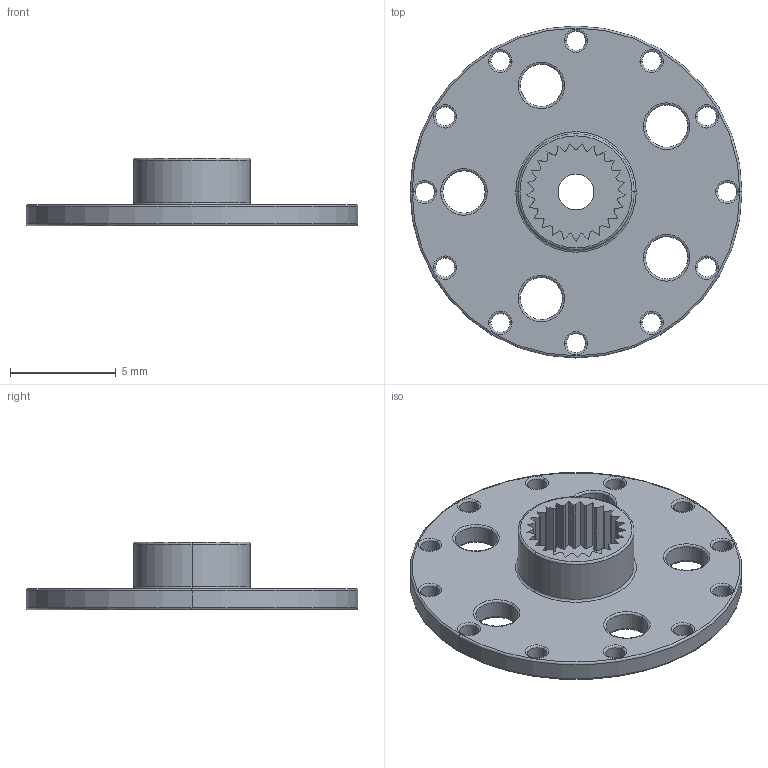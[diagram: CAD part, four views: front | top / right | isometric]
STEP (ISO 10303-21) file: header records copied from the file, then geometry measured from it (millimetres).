
FILE_DESCRIPTION (( 'STEP AP203' ), '1' );
FILE_NAME ('Micro sized Servo Mount - Round_Default.step', '2015-09-06T16:54:11', ( '' ), ( '' ), 'SwSTEP 2.0', 'SolidWorks 2015', '' );
FILE_SCHEMA (( 'CONFIG_CONTROL_DESIGN' ));
Length unit declared in the file: millimetre
Products named in the file (1): Micro sized Servo Mount - Round_Default
Bounding box: 15.7 x 15.7 x 3.2 mm (x, y, z)
Volume: 182.5 mm3; surface area: 538.7 mm2
Topology: 1 solids, 1 shells, 200 faces, 507 edges, 312 vertices
Faces by surface type: torus 78, cylinder 67, plane 55
Entity records: 6226 total; most frequent: DIRECTION 1199, CARTESIAN_POINT 1020, ORIENTED_EDGE 1014, EDGE_CURVE 507, AXIS2_PLACEMENT_3D 491, VERTEX_POINT 312, CIRCLE 290, EDGE_LOOP 239
